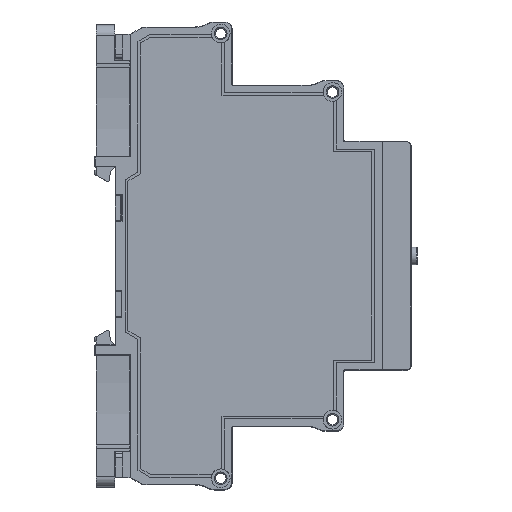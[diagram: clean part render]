
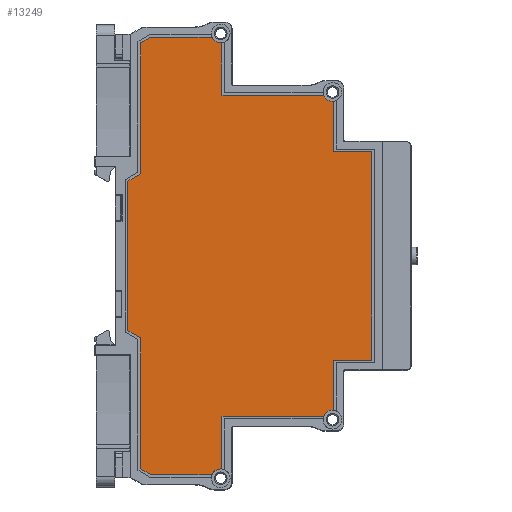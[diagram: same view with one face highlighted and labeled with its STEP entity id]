
A CAD part, top view. The second image highlights one B-rep face of the part: STEP entity #13249.
In plain terms, the highlighted planar face has unit normal (0, 0, 1) as drawn and (1, 0, 0) by its records, which use the part's own axes.
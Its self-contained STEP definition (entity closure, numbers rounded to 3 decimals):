
#13249=ADVANCED_FACE('',(#48638),#48640,.T.);
#48638=FACE_BOUND('',#48639,.T.);
#48639=EDGE_LOOP('',(#77290,#77291,#77292,#77293,#77294,#77295,#77296,#77297,#77298,
#77299,#77300,#77301,#77302,#77303,#77304,#77305,#77306,#77307,#77308,#77309,#77310,
#77311));
#48640=PLANE('',#48641);
#48641=AXIS2_PLACEMENT_3D('',#48642,#48643,#48644);
#48642=CARTESIAN_POINT('',(17.5,0.,0.));
#48643=DIRECTION('',(1.,0.,0.));
#48644=DIRECTION('',(0.,0.,-1.));
#77290=ORIENTED_EDGE('',*,*,#97796,.F.);
#77291=ORIENTED_EDGE('',*,*,#97797,.T.);
#77292=ORIENTED_EDGE('',*,*,#97474,.F.);
#77293=ORIENTED_EDGE('',*,*,#97798,.T.);
#77294=ORIENTED_EDGE('',*,*,#97799,.T.);
#77295=ORIENTED_EDGE('',*,*,#97800,.T.);
#77296=ORIENTED_EDGE('',*,*,#97801,.T.);
#77297=ORIENTED_EDGE('',*,*,#97802,.T.);
#77298=ORIENTED_EDGE('',*,*,#97460,.F.);
#77299=ORIENTED_EDGE('',*,*,#97795,.F.);
#77300=ORIENTED_EDGE('',*,*,#97803,.T.);
#77301=ORIENTED_EDGE('',*,*,#97512,.F.);
#77302=ORIENTED_EDGE('',*,*,#97804,.T.);
#77303=ORIENTED_EDGE('',*,*,#97805,.F.);
#77304=ORIENTED_EDGE('',*,*,#97806,.T.);
#77305=ORIENTED_EDGE('',*,*,#97807,.T.);
#77306=ORIENTED_EDGE('',*,*,#97808,.T.);
#77307=ORIENTED_EDGE('',*,*,#97809,.T.);
#77308=ORIENTED_EDGE('',*,*,#97810,.T.);
#77309=ORIENTED_EDGE('',*,*,#97811,.F.);
#77310=ORIENTED_EDGE('',*,*,#97812,.T.);
#77311=ORIENTED_EDGE('',*,*,#97485,.F.);
#97460=EDGE_CURVE('',#111297,#111289,#111299,.T.);
#97474=EDGE_CURVE('',#111319,#111321,#111322,.T.);
#97485=EDGE_CURVE('',#111338,#111340,#111341,.T.);
#97512=EDGE_CURVE('',#111382,#111376,#111384,.T.);
#97795=EDGE_CURVE('',#111834,#111297,#111836,.T.);
#97796=EDGE_CURVE('',#111837,#111338,#111838,.T.);
#97797=EDGE_CURVE('',#111837,#111321,#111839,.T.);
#97798=EDGE_CURVE('',#111319,#111840,#111841,.T.);
#97799=EDGE_CURVE('',#111840,#111842,#111843,.T.);
#97800=EDGE_CURVE('',#111842,#111844,#111845,.T.);
#97801=EDGE_CURVE('',#111844,#111846,#111847,.T.);
#97802=EDGE_CURVE('',#111846,#111289,#111848,.T.);
#97803=EDGE_CURVE('',#111834,#111376,#111849,.T.);
#97804=EDGE_CURVE('',#111382,#111850,#111851,.T.);
#97805=EDGE_CURVE('',#111852,#111850,#111853,.T.);
#97806=EDGE_CURVE('',#111852,#111854,#111855,.T.);
#97807=EDGE_CURVE('',#111854,#111856,#111857,.T.);
#97808=EDGE_CURVE('',#111856,#111858,#111859,.T.);
#97809=EDGE_CURVE('',#111858,#111860,#111861,.T.);
#97810=EDGE_CURVE('',#111860,#111862,#111863,.T.);
#97811=EDGE_CURVE('',#111864,#111862,#111865,.T.);
#97812=EDGE_CURVE('',#111864,#111340,#111866,.T.);
#111289=VERTEX_POINT('',#138990);
#111297=VERTEX_POINT('',#139008);
#111299=CIRCLE('',#139012,1.85);
#111319=VERTEX_POINT('',#139061);
#111321=VERTEX_POINT('',#139065);
#111322=CIRCLE('',#139066,1.85);
#111338=VERTEX_POINT('',#139106);
#111340=VERTEX_POINT('',#139110);
#111341=CIRCLE('',#139111,1.85);
#111376=VERTEX_POINT('',#139195);
#111382=VERTEX_POINT('',#139209);
#111384=CIRCLE('',#139213,1.85);
#111834=VERTEX_POINT('',#140270);
#111836=LINE('',#140274,#140275);
#111837=VERTEX_POINT('',#140277);
#111838=LINE('',#140278,#140279);
#111839=LINE('',#140281,#140282);
#111840=VERTEX_POINT('',#140284);
#111841=LINE('',#140285,#140286);
#111842=VERTEX_POINT('',#140288);
#111843=LINE('',#140289,#140290);
#111844=VERTEX_POINT('',#140292);
#111845=LINE('',#140293,#140294);
#111846=VERTEX_POINT('',#140296);
#111847=LINE('',#140297,#140298);
#111848=LINE('',#140300,#140301);
#111849=LINE('',#140303,#140304);
#111850=VERTEX_POINT('',#140306);
#111851=LINE('',#140307,#140308);
#111852=VERTEX_POINT('',#140310);
#111853=LINE('',#140311,#140312);
#111854=VERTEX_POINT('',#140314);
#111855=LINE('',#140315,#140316);
#111856=VERTEX_POINT('',#140318);
#111857=LINE('',#140319,#140320);
#111858=VERTEX_POINT('',#140322);
#111859=LINE('',#140323,#140324);
#111860=VERTEX_POINT('',#140326);
#111861=LINE('',#140327,#140328);
#111862=VERTEX_POINT('',#140330);
#111863=LINE('',#140331,#140332);
#111864=VERTEX_POINT('',#140334);
#111865=LINE('',#140335,#140336);
#111866=LINE('',#140338,#140339);
#138990=CARTESIAN_POINT('',(17.5,-30.541,38.985));
#139008=CARTESIAN_POINT('',(17.5,-31.7,37.015));
#139012=AXIS2_PLACEMENT_3D('',#139013,#139014,#139015);
#139013=CARTESIAN_POINT('',(17.5,-32.375,38.738));
#139014=DIRECTION('',(1.,0.,0.));
#139015=DIRECTION('',(0.,0.365,-0.931));
#139061=CARTESIAN_POINT('',(17.5,30.541,38.985));
#139065=CARTESIAN_POINT('',(17.5,31.7,37.015));
#139066=AXIS2_PLACEMENT_3D('',#139067,#139068,#139069);
#139067=CARTESIAN_POINT('',(17.5,32.375,38.738));
#139068=DIRECTION('',(1.,0.,0.));
#139069=DIRECTION('',(0.,-0.991,0.134));
#139106=CARTESIAN_POINT('',(17.5,42.103,16.897));
#139110=CARTESIAN_POINT('',(17.5,43.2,14.953));
#139111=AXIS2_PLACEMENT_3D('',#139112,#139113,#139114);
#139112=CARTESIAN_POINT('',(17.5,43.937,16.65));
#139113=DIRECTION('',(1.,0.,0.));
#139114=DIRECTION('',(0.,-0.991,0.134));
#139195=CARTESIAN_POINT('',(17.5,-42.103,16.897));
#139209=CARTESIAN_POINT('',(17.5,-43.2,14.953));
#139213=AXIS2_PLACEMENT_3D('',#139214,#139215,#139216);
#139214=CARTESIAN_POINT('',(17.5,-43.937,16.65));
#139215=DIRECTION('',(1.,0.,0.));
#139216=DIRECTION('',(0.,0.398,-0.917));
#140270=CARTESIAN_POINT('',(17.5,-31.7,16.897));
#140274=CARTESIAN_POINT('',(17.5,-31.7,16.897));
#140275=VECTOR('',#140276,1.);
#140276=DIRECTION('',(0.,0.,1.));
#140277=CARTESIAN_POINT('',(17.5,31.7,16.897));
#140278=CARTESIAN_POINT('',(17.5,31.7,16.897));
#140279=VECTOR('',#140280,1.);
#140280=DIRECTION('',(0.,1.,0.));
#140281=CARTESIAN_POINT('',(17.5,31.7,16.897));
#140282=VECTOR('',#140283,1.);
#140283=DIRECTION('',(0.,0.,1.));
#140284=CARTESIAN_POINT('',(17.5,20.6,38.985));
#140285=CARTESIAN_POINT('',(17.5,30.541,38.985));
#140286=VECTOR('',#140287,1.);
#140287=DIRECTION('',(0.,-1.,0.));
#140288=CARTESIAN_POINT('',(17.5,20.6,46.53));
#140289=CARTESIAN_POINT('',(17.5,20.6,38.985));
#140290=VECTOR('',#140291,1.);
#140291=DIRECTION('',(0.,0.,1.));
#140292=CARTESIAN_POINT('',(17.5,-20.6,46.53));
#140293=CARTESIAN_POINT('',(17.5,20.6,46.53));
#140294=VECTOR('',#140295,1.);
#140295=DIRECTION('',(0.,-1.,0.));
#140296=CARTESIAN_POINT('',(17.5,-20.6,38.985));
#140297=CARTESIAN_POINT('',(17.5,-20.6,46.53));
#140298=VECTOR('',#140299,1.);
#140299=DIRECTION('',(0.,0.,-1.));
#140300=CARTESIAN_POINT('',(17.5,-20.6,38.985));
#140301=VECTOR('',#140302,1.);
#140302=DIRECTION('',(0.,-1.,0.));
#140303=CARTESIAN_POINT('',(17.5,-31.7,16.897));
#140304=VECTOR('',#140305,1.);
#140305=DIRECTION('',(0.,-1.,0.));
#140306=CARTESIAN_POINT('',(17.5,-43.2,2.761));
#140307=CARTESIAN_POINT('',(17.5,-43.2,14.953));
#140308=VECTOR('',#140309,1.);
#140309=DIRECTION('',(0.,0.,-1.));
#140310=CARTESIAN_POINT('',(17.5,-42.068,0.8));
#140311=CARTESIAN_POINT('',(17.5,-42.068,0.8));
#140312=VECTOR('',#140313,1.);
#140313=DIRECTION('',(0.,-0.5,0.866));
#140314=CARTESIAN_POINT('',(17.5,-16.211,0.8));
#140315=CARTESIAN_POINT('',(17.5,-42.068,0.8));
#140316=VECTOR('',#140317,1.);
#140317=DIRECTION('',(0.,1.,0.));
#140318=CARTESIAN_POINT('',(17.5,-14.768,-1.7));
#140319=CARTESIAN_POINT('',(17.5,-16.211,0.8));
#140320=VECTOR('',#140321,1.);
#140321=DIRECTION('',(0.,0.5,-0.866));
#140322=CARTESIAN_POINT('',(17.5,14.768,-1.7));
#140323=CARTESIAN_POINT('',(17.5,-14.768,-1.7));
#140324=VECTOR('',#140325,1.);
#140325=DIRECTION('',(0.,1.,0.));
#140326=CARTESIAN_POINT('',(17.5,16.211,0.8));
#140327=CARTESIAN_POINT('',(17.5,14.768,-1.7));
#140328=VECTOR('',#140329,1.);
#140329=DIRECTION('',(0.,0.5,0.866));
#140330=CARTESIAN_POINT('',(17.5,42.068,0.8));
#140331=CARTESIAN_POINT('',(17.5,16.211,0.8));
#140332=VECTOR('',#140333,1.);
#140333=DIRECTION('',(0.,1.,0.));
#140334=CARTESIAN_POINT('',(17.5,43.2,2.761));
#140335=CARTESIAN_POINT('',(17.5,43.2,2.761));
#140336=VECTOR('',#140337,1.);
#140337=DIRECTION('',(0.,-0.5,-0.866));
#140338=CARTESIAN_POINT('',(17.5,43.2,2.761));
#140339=VECTOR('',#140340,1.);
#140340=DIRECTION('',(0.,0.,1.));
